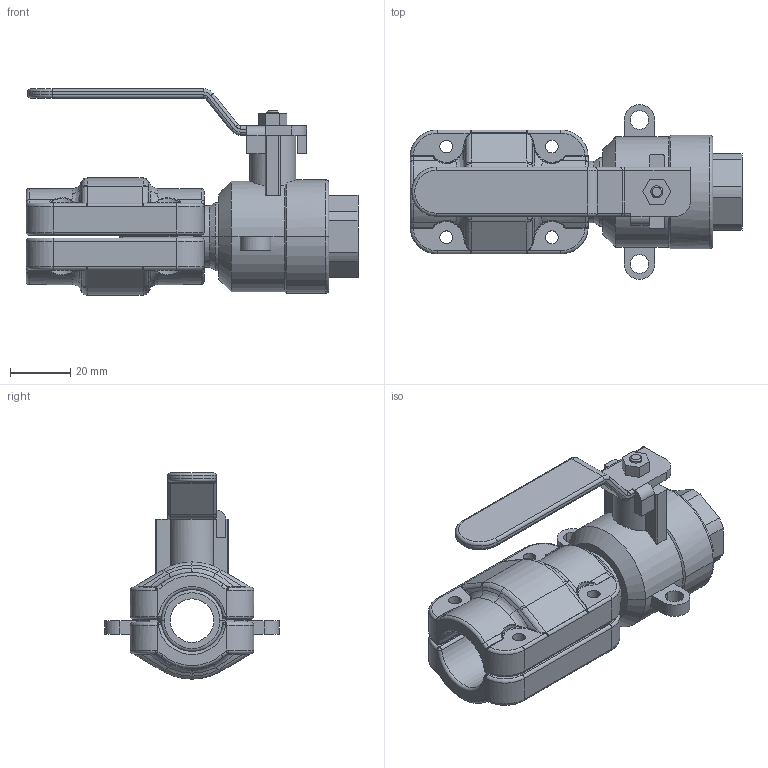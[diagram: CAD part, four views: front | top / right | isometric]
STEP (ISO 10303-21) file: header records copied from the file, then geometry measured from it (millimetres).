
FILE_DESCRIPTION((''),'2;1');
FILE_NAME('AU15125199_ASM','2017-05-13T',('li'),(''),'PRO/ENGINEER BY PARAMETRIC TECHNOLOGY CORPORATION, 2009360','PRO/ENGINEER BY PARAMETRIC TECHNOLOGY CORPORATION, 2009360','');
FILE_SCHEMA(('AUTOMOTIVE_DESIGN { 1 0 10303 214 1 1 1 1 }'));
Length unit declared in the file: millimetre
Products named in the file (5): AU15125100; 201510020000_38; 201510020001_10; 2015100200_ASM; AU15125199_ASM
Assembly tree (4 placements, depth 3):
  AU15125199_ASM
    AU15125100
    2015100200_ASM
      201510020000_38
      201510020001_10
Bounding box: 109.96 x 57.85 x 68.33 mm (x, y, z)
Volume: 74810.8 mm3; surface area: 38011.3 mm2
Topology: 3 solids, 9 shells, 511 faces, 1222 edges, 735 vertices
Faces by surface type: cylinder 171, bspline 136, plane 93, torus 74, cone 29, sphere 8
Entity records: 23757 total; most frequent: CARTESIAN_POINT 8811, ORIENTED_EDGE 2444, DIRECTION 2081, PRESENTATION_STYLE_ASSIGNMENT 1225, STYLED_ITEM 1225, CURVE_STYLE 1222, EDGE_CURVE 1222, AXIS2_PLACEMENT_3D 850
